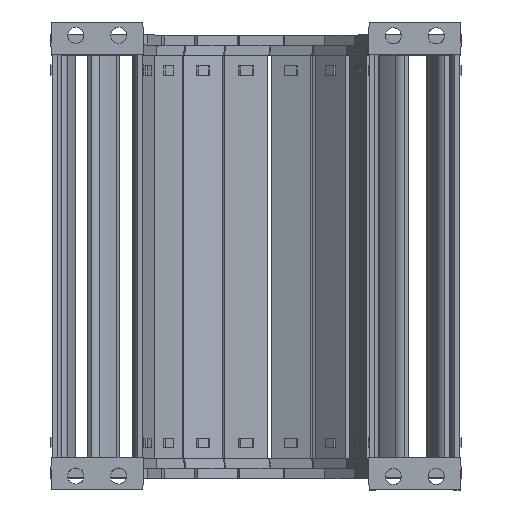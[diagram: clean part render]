
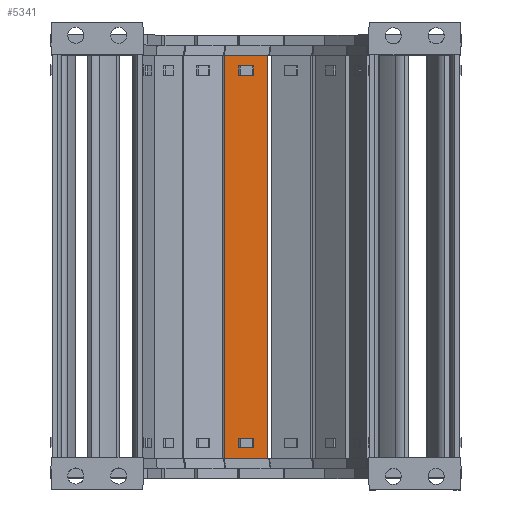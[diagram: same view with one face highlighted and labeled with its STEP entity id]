
A CAD part, top view. The second image highlights one B-rep face of the part: STEP entity #5341.
In plain terms, the highlighted planar face has unit normal (0.035, 0, 0.999).
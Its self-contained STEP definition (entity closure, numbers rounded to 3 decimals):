
#293=FACE_BOUND('',#15295,.T.);
#294=FACE_BOUND('',#15296,.T.);
#295=FACE_BOUND('',#15297,.T.);
#5341=ADVANCED_FACE('',(#293,#294,#295),#8414,.F.);
#8414=PLANE('',#76721);
#15295=EDGE_LOOP('',(#41093,#41094,#41095,#41096));
#15296=EDGE_LOOP('',(#41097,#41098,#41099,#41100));
#15297=EDGE_LOOP('',(#41101,#41102,#41103,#41104));
#21407=LINE('',#117715,#27585);
#21409=LINE('',#117719,#27587);
#21411=LINE('',#117723,#27589);
#21412=LINE('',#117725,#27590);
#21419=LINE('',#117740,#27597);
#21421=LINE('',#117744,#27599);
#21423=LINE('',#117748,#27601);
#21424=LINE('',#117750,#27602);
#21425=LINE('',#117752,#27603);
#21426=LINE('',#117755,#27604);
#21427=LINE('',#117757,#27605);
#21428=LINE('',#117759,#27606);
#27585=VECTOR('',#90400,1.);
#27587=VECTOR('',#90404,1.);
#27589=VECTOR('',#90408,1.);
#27590=VECTOR('',#90411,1.);
#27597=VECTOR('',#90422,1.);
#27599=VECTOR('',#90426,1.);
#27601=VECTOR('',#90430,1.);
#27602=VECTOR('',#90433,1.);
#27603=VECTOR('',#90436,1.);
#27604=VECTOR('',#90437,1.);
#27605=VECTOR('',#90438,1.);
#27606=VECTOR('',#90439,1.);
#41093=ORIENTED_EDGE('',*,*,#65015,.F.);
#41094=ORIENTED_EDGE('',*,*,#65013,.F.);
#41095=ORIENTED_EDGE('',*,*,#65011,.T.);
#41096=ORIENTED_EDGE('',*,*,#65016,.T.);
#41097=ORIENTED_EDGE('',*,*,#65027,.F.);
#41098=ORIENTED_EDGE('',*,*,#65025,.T.);
#41099=ORIENTED_EDGE('',*,*,#65023,.T.);
#41100=ORIENTED_EDGE('',*,*,#65028,.F.);
#41101=ORIENTED_EDGE('',*,*,#65029,.F.);
#41102=ORIENTED_EDGE('',*,*,#65030,.F.);
#41103=ORIENTED_EDGE('',*,*,#65031,.T.);
#41104=ORIENTED_EDGE('',*,*,#65032,.T.);
#56103=VERTEX_POINT('',#117712);
#56104=VERTEX_POINT('',#117714);
#56105=VERTEX_POINT('',#117718);
#56106=VERTEX_POINT('',#117722);
#56111=VERTEX_POINT('',#117737);
#56112=VERTEX_POINT('',#117739);
#56113=VERTEX_POINT('',#117743);
#56114=VERTEX_POINT('',#117747);
#56115=VERTEX_POINT('',#117753);
#56116=VERTEX_POINT('',#117754);
#56117=VERTEX_POINT('',#117756);
#56118=VERTEX_POINT('',#117758);
#65011=EDGE_CURVE('',#56103,#56104,#21407,.T.);
#65013=EDGE_CURVE('',#56103,#56105,#21409,.T.);
#65015=EDGE_CURVE('',#56105,#56106,#21411,.T.);
#65016=EDGE_CURVE('',#56104,#56106,#21412,.T.);
#65023=EDGE_CURVE('',#56111,#56112,#21419,.T.);
#65025=EDGE_CURVE('',#56113,#56111,#21421,.T.);
#65027=EDGE_CURVE('',#56113,#56114,#21423,.T.);
#65028=EDGE_CURVE('',#56114,#56112,#21424,.T.);
#65029=EDGE_CURVE('',#56115,#56116,#21425,.T.);
#65030=EDGE_CURVE('',#56117,#56115,#21426,.T.);
#65031=EDGE_CURVE('',#56117,#56118,#21427,.T.);
#65032=EDGE_CURVE('',#56118,#56116,#21428,.T.);
#76721=AXIS2_PLACEMENT_3D('',#117760,#90440,#90441);
#90400=DIRECTION('',(0.,1.,0.));
#90404=DIRECTION('',(0.999,0.,-0.035));
#90408=DIRECTION('',(0.,1.,0.));
#90411=DIRECTION('',(0.999,0.,-0.035));
#90422=DIRECTION('',(0.,-1.,0.));
#90426=DIRECTION('',(0.999,0.,-0.035));
#90430=DIRECTION('',(0.,-1.,0.));
#90433=DIRECTION('',(0.999,0.,-0.035));
#90436=DIRECTION('',(0.,1.,0.));
#90437=DIRECTION('',(-0.999,0.,0.035));
#90438=DIRECTION('',(0.,1.,0.));
#90439=DIRECTION('',(-0.999,0.,0.035));
#90440=DIRECTION('',(-0.035,0.,-0.999));
#90441=DIRECTION('',(-0.999,0.,0.035));
#117712=CARTESIAN_POINT('',(-65.615,-146.5,-62.316));
#117714=CARTESIAN_POINT('',(-65.615,-143.,-62.316));
#117715=CARTESIAN_POINT('',(-65.615,-93.26,-62.316));
#117718=CARTESIAN_POINT('',(-60.267,-146.5,-62.503));
#117719=CARTESIAN_POINT('',(-65.615,-146.5,-62.316));
#117722=CARTESIAN_POINT('',(-60.267,-143.,-62.503));
#117723=CARTESIAN_POINT('',(-60.267,-125.,-62.503));
#117725=CARTESIAN_POINT('',(-65.615,-143.,-62.316));
#117737=CARTESIAN_POINT('',(-60.267,-4.,-62.503));
#117739=CARTESIAN_POINT('',(-60.267,-7.5,-62.503));
#117740=CARTESIAN_POINT('',(-60.267,-4.,-62.503));
#117743=CARTESIAN_POINT('',(-65.615,-4.,-62.316));
#117744=CARTESIAN_POINT('',(-65.615,-4.,-62.316));
#117747=CARTESIAN_POINT('',(-65.615,-7.5,-62.316));
#117748=CARTESIAN_POINT('',(-65.615,-4.,-62.316));
#117750=CARTESIAN_POINT('',(-65.615,-7.5,-62.316));
#117752=CARTESIAN_POINT('',(-70.836,-25.26,-62.134));
#117753=CARTESIAN_POINT('',(-70.836,-150.5,-62.134));
#117754=CARTESIAN_POINT('',(-70.836,0.,-62.134));
#117755=CARTESIAN_POINT('',(-73.083,-150.5,-62.056));
#117756=CARTESIAN_POINT('',(-55.046,-150.5,-62.685));
#117757=CARTESIAN_POINT('',(-55.046,-25.5,-62.685));
#117758=CARTESIAN_POINT('',(-55.046,0.,-62.685));
#117759=CARTESIAN_POINT('',(-55.046,0.,-62.685));
#117760=CARTESIAN_POINT('',(-52.887,31.74,-62.761));
